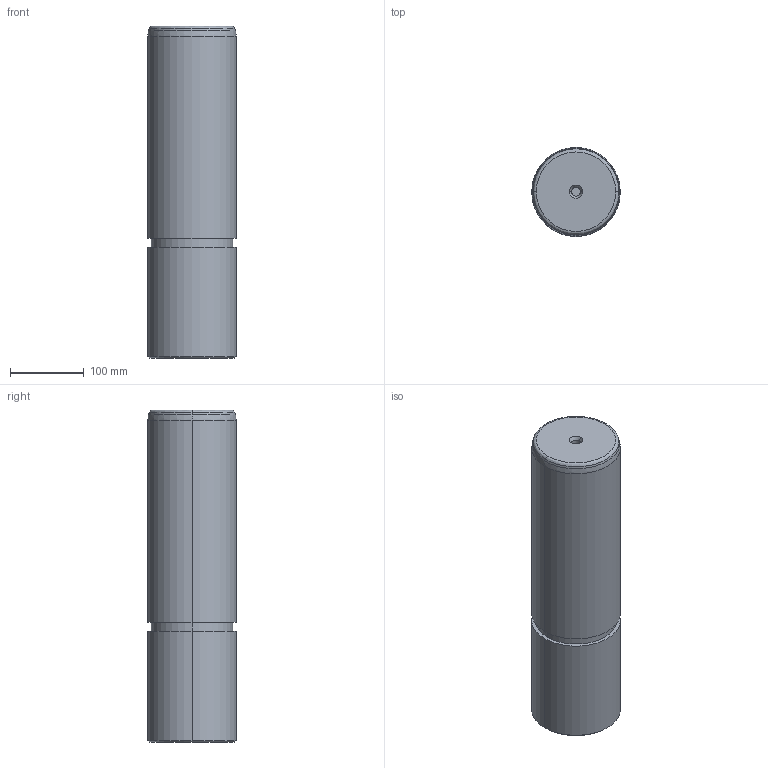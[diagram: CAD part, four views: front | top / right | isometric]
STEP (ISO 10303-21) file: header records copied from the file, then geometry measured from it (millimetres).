
FILE_DESCRIPTION((''),'2;1');
FILE_NAME('','2010-09-08T13:06:51+09:00',('misumi'),(''),'M/STEP i/f 1R2-14','CADmeister v5.1','');
FILE_SCHEMA(('AUTOMOTIVE_DESIGN'));
Length unit declared in the file: millimetre
Products named in the file (1): GPOB120-450
Bounding box: 120 x 120 x 450 mm (x, y, z)
Volume: 5056589.1 mm3; surface area: 194992.4 mm2
Topology: 1 solids, 1 shells, 23 faces, 44 edges, 26 vertices
Faces by surface type: cylinder 8, cone 6, plane 5, revolution 4
Entity records: 690 total; most frequent: DIRECTION 122, CARTESIAN_POINT 104, ORIENTED_EDGE 88, AXIS2_PLACEMENT_3D 52, EDGE_CURVE 44, CIRCLE 32, VERTEX_POINT 26, EDGE_LOOP 26
